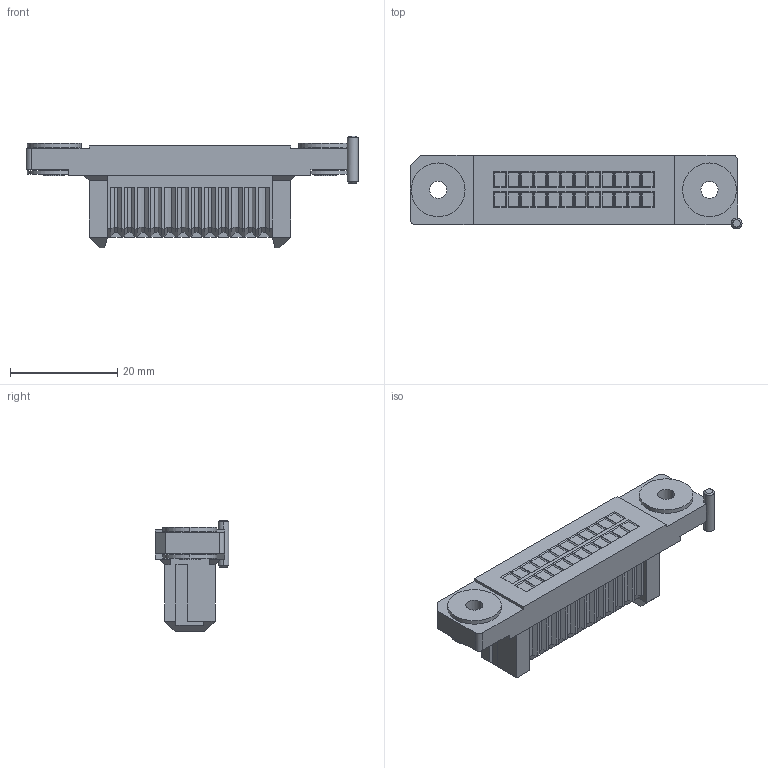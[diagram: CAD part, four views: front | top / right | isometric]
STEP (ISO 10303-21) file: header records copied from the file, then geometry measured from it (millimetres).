
FILE_DESCRIPTION(('CoCreate Modeling STEP Export'),'2;1');
FILE_NAME('P3A947_FA01-024.stp','2017-07-27T14:28:41',(''),(''),'CoCreate Modeling STEP processor for AP214 (Solid Model)','CoCreate Modeling 17.0B 09-Oct-2010 (C) Parametric Technology GmbH','');
FILE_SCHEMA(('AUTOMOTIVE_DESIGN { 1 0 10303 214 1 1 1 1 }'));
Length unit declared in the file: millimetre
Products named in the file (2): FA01-024
Assembly tree (1 placements, depth 2):
  FA01-024
    FA01-024
Bounding box: 61.8 x 13.7 x 20.8 mm (x, y, z)
Volume: 7327.3 mm3; surface area: 4399.1 mm2
Topology: 1 solids, 1 shells, 519 faces, 1234 edges, 751 vertices
Faces by surface type: plane 487, cylinder 28, cone 4
Entity records: 14306 total; most frequent: CARTESIAN_POINT 2469, ORIENTED_EDGE 2468, DIRECTION 2272, EDGE_CURVE 1234, VECTOR 1164, LINE 1164, VERTEX_POINT 751, EDGE_LOOP 557
